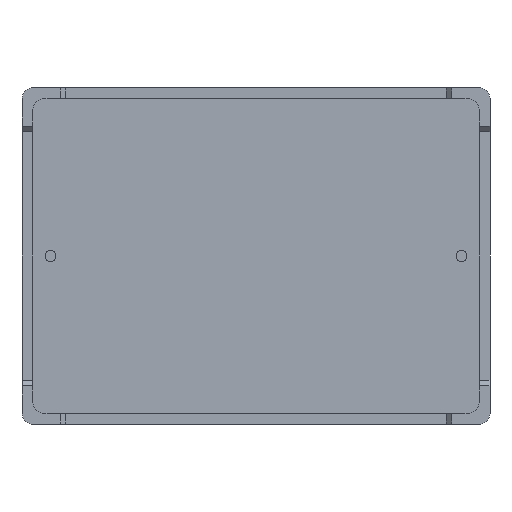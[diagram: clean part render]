
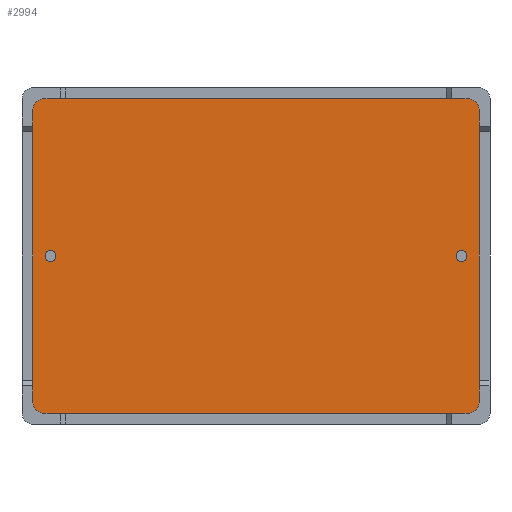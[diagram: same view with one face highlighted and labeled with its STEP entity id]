
A CAD part, front view. The second image highlights one B-rep face of the part: STEP entity #2994.
In plain terms, the highlighted planar face has unit normal (0, -1, 0).
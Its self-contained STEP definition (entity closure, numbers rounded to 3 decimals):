
#10 = CARTESIAN_POINT ( 'NONE',  ( 20.35, 1., -14.35 ) ) ;
#111 = CIRCLE ( 'NONE', #1027, 1. ) ;
#268 = DIRECTION ( 'NONE',  ( 0., -1., 0. ) ) ;
#277 = VERTEX_POINT ( 'NONE', #2335 ) ;
#333 = CARTESIAN_POINT ( 'NONE',  ( 19.35, 1., -14.35 ) ) ;
#386 = VERTEX_POINT ( 'NONE', #333 ) ;
#425 = CARTESIAN_POINT ( 'NONE',  ( 20.35, 1., -13.35 ) ) ;
#475 = AXIS2_PLACEMENT_3D ( 'NONE', #2781, #705, #3070 ) ;
#478 = EDGE_CURVE ( 'NONE', #2784, #863, #2362, .T. ) ;
#504 = CARTESIAN_POINT ( 'NONE',  ( -19.35, 1., 13.35 ) ) ;
#544 = PLANE ( 'NONE',  #2702 ) ;
#562 = DIRECTION ( 'NONE',  ( 0., -1., 0. ) ) ;
#613 = CARTESIAN_POINT ( 'NONE',  ( 19.35, 1., 14.35 ) ) ;
#705 = DIRECTION ( 'NONE',  ( 0., -1., 0. ) ) ;
#729 = VERTEX_POINT ( 'NONE', #613 ) ;
#858 = EDGE_CURVE ( 'NONE', #1911, #3394, #3180, .T. ) ;
#863 = VERTEX_POINT ( 'NONE', #3868 ) ;
#868 = EDGE_LOOP ( 'NONE', ( #912, #917, #923, #929, #937, #943, #948, #950 ) ) ;
#893 = CARTESIAN_POINT ( 'NONE',  ( 18.75, 1., -0.5 ) ) ;
#901 = ORIENTED_EDGE ( 'NONE', *, *, #1188, .F. ) ;
#904 = ORIENTED_EDGE ( 'NONE', *, *, #3164, .F. ) ;
#908 = DIRECTION ( 'NONE',  ( 0., 0., -1. ) ) ;
#912 = ORIENTED_EDGE ( 'NONE', *, *, #2195, .T. ) ;
#913 = CARTESIAN_POINT ( 'NONE',  ( -19.35, 1., -14.35 ) ) ;
#917 = ORIENTED_EDGE ( 'NONE', *, *, #858, .T. ) ;
#923 = ORIENTED_EDGE ( 'NONE', *, *, #1823, .T. ) ;
#929 = ORIENTED_EDGE ( 'NONE', *, *, #2706, .T. ) ;
#937 = ORIENTED_EDGE ( 'NONE', *, *, #478, .T. ) ;
#943 = ORIENTED_EDGE ( 'NONE', *, *, #4197, .T. ) ;
#948 = ORIENTED_EDGE ( 'NONE', *, *, #2532, .T. ) ;
#950 = ORIENTED_EDGE ( 'NONE', *, *, #2232, .T. ) ;
#1027 = AXIS2_PLACEMENT_3D ( 'NONE', #504, #2931, #908 ) ;
#1040 = CIRCLE ( 'NONE', #475, 0.5 ) ;
#1169 = LINE ( 'NONE', #1241, #3025 ) ;
#1188 = EDGE_CURVE ( 'NONE', #2277, #2277, #2389, .T. ) ;
#1241 = CARTESIAN_POINT ( 'NONE',  ( -20.35, 1., 14.35 ) ) ;
#1522 = AXIS2_PLACEMENT_3D ( 'NONE', #3748, #2015, #4036 ) ;
#1535 = VERTEX_POINT ( 'NONE', #1544 ) ;
#1544 = CARTESIAN_POINT ( 'NONE',  ( -19.35, 1., 14.35 ) ) ;
#1583 = VECTOR ( 'NONE', #2985, 1000. ) ;
#1610 = AXIS2_PLACEMENT_3D ( 'NONE', #2468, #268, #2768 ) ;
#1746 = FACE_OUTER_BOUND ( 'NONE', #868, .T. ) ;
#1798 = DIRECTION ( 'NONE',  ( -1., 0., 0. ) ) ;
#1823 = EDGE_CURVE ( 'NONE', #3394, #386, #3889, .T. ) ;
#1896 = DIRECTION ( 'NONE',  ( 0., -1., 0. ) ) ;
#1911 = VERTEX_POINT ( 'NONE', #4136 ) ;
#1984 = AXIS2_PLACEMENT_3D ( 'NONE', #1998, #4021, #2319 ) ;
#1998 = CARTESIAN_POINT ( 'NONE',  ( 19.35, 1., 13.35 ) ) ;
#2015 = DIRECTION ( 'NONE',  ( 0., -1., 0. ) ) ;
#2095 = VERTEX_POINT ( 'NONE', #3415 ) ;
#2161 = DIRECTION ( 'NONE',  ( 0., 0., 1. ) ) ;
#2195 = EDGE_CURVE ( 'NONE', #2095, #1911, #1169, .T. ) ;
#2232 = EDGE_CURVE ( 'NONE', #1535, #2095, #111, .T. ) ;
#2277 = VERTEX_POINT ( 'NONE', #893 ) ;
#2319 = DIRECTION ( 'NONE',  ( 0., 0., -1. ) ) ;
#2335 = CARTESIAN_POINT ( 'NONE',  ( -18.75, 1., -0.5 ) ) ;
#2362 = LINE ( 'NONE', #10, #3773 ) ;
#2389 = CIRCLE ( 'NONE', #1522, 0.5 ) ;
#2414 = CARTESIAN_POINT ( 'NONE',  ( -20.35, 1., -14.35 ) ) ;
#2468 = CARTESIAN_POINT ( 'NONE',  ( -19.35, 1., -13.35 ) ) ;
#2532 = EDGE_CURVE ( 'NONE', #729, #1535, #3282, .T. ) ;
#2584 = AXIS2_PLACEMENT_3D ( 'NONE', #3656, #1896, #3944 ) ;
#2626 = VECTOR ( 'NONE', #1798, 1000. ) ;
#2702 = AXIS2_PLACEMENT_3D ( 'NONE', #3503, #562, #2965 ) ;
#2706 = EDGE_CURVE ( 'NONE', #386, #2784, #4235, .T. ) ;
#2709 = FACE_BOUND ( 'NONE', #3484, .T. ) ;
#2768 = DIRECTION ( 'NONE',  ( 0., 0., -1. ) ) ;
#2781 = CARTESIAN_POINT ( 'NONE',  ( -18.75, 1., 0. ) ) ;
#2784 = VERTEX_POINT ( 'NONE', #425 ) ;
#2931 = DIRECTION ( 'NONE',  ( 0., -1., 0. ) ) ;
#2965 = DIRECTION ( 'NONE',  ( 0., 0., -1. ) ) ;
#2985 = DIRECTION ( 'NONE',  ( 1., 0., 0. ) ) ;
#2994 = ADVANCED_FACE ( 'NONE', ( #3279, #2709, #1746 ), #544, .T. ) ;
#3025 = VECTOR ( 'NONE', #3463, 1000. ) ;
#3070 = DIRECTION ( 'NONE',  ( 0., 0., -1. ) ) ;
#3116 = EDGE_LOOP ( 'NONE', ( #901 ) ) ;
#3164 = EDGE_CURVE ( 'NONE', #277, #277, #1040, .T. ) ;
#3180 = CIRCLE ( 'NONE', #1610, 1. ) ;
#3228 = CIRCLE ( 'NONE', #1984, 1. ) ;
#3279 = FACE_BOUND ( 'NONE', #3116, .T. ) ;
#3282 = LINE ( 'NONE', #3851, #2626 ) ;
#3394 = VERTEX_POINT ( 'NONE', #913 ) ;
#3415 = CARTESIAN_POINT ( 'NONE',  ( -20.35, 1., 13.35 ) ) ;
#3463 = DIRECTION ( 'NONE',  ( 0., 0., -1. ) ) ;
#3484 = EDGE_LOOP ( 'NONE', ( #904 ) ) ;
#3503 = CARTESIAN_POINT ( 'NONE',  ( 0., 1., 0. ) ) ;
#3656 = CARTESIAN_POINT ( 'NONE',  ( 19.35, 1., -13.35 ) ) ;
#3748 = CARTESIAN_POINT ( 'NONE',  ( 18.75, 1., 0. ) ) ;
#3773 = VECTOR ( 'NONE', #2161, 1000. ) ;
#3851 = CARTESIAN_POINT ( 'NONE',  ( 20.35, 1., 14.35 ) ) ;
#3868 = CARTESIAN_POINT ( 'NONE',  ( 20.35, 1., 13.35 ) ) ;
#3889 = LINE ( 'NONE', #2414, #1583 ) ;
#3944 = DIRECTION ( 'NONE',  ( 0., 0., -1. ) ) ;
#4021 = DIRECTION ( 'NONE',  ( 0., -1., 0. ) ) ;
#4036 = DIRECTION ( 'NONE',  ( 0., 0., -1. ) ) ;
#4136 = CARTESIAN_POINT ( 'NONE',  ( -20.35, 1., -13.35 ) ) ;
#4197 = EDGE_CURVE ( 'NONE', #863, #729, #3228, .T. ) ;
#4235 = CIRCLE ( 'NONE', #2584, 1. ) ;
